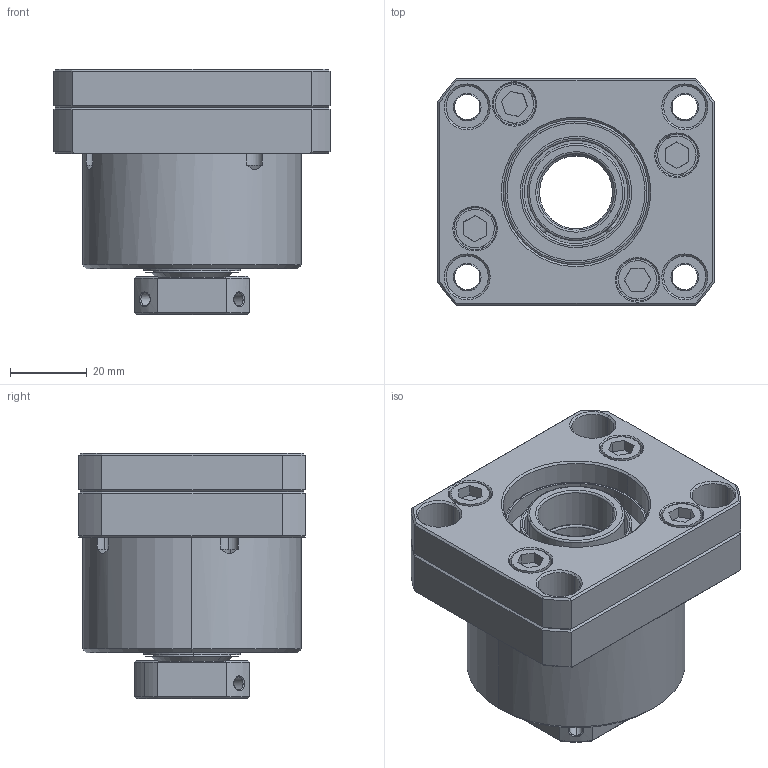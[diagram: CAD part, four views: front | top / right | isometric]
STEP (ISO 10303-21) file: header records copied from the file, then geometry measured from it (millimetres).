
FILE_DESCRIPTION (( 'STEP AP203' ), '1' );
FILE_NAME ('FKA20²Õ¦X¥óB.STEP', '2021-09-29T03:03:01', ( '' ), ( '' ), 'SwSTEP 2.0', 'SolidWorks 2018', '' );
FILE_SCHEMA (( 'CONFIG_CONTROL_DESIGN' ));
Length unit declared in the file: millimetre
Products named in the file (1): FKA20組合件B
Bounding box: 72 x 59 x 64 mm (x, y, z)
Surface area: 35118.7 mm2 (no closed solid volume)
Topology: 0 solids, 16 shells, 248 faces, 625 edges, 389 vertices
Faces by surface type: cylinder 87, plane 77, cone 60, torus 20, bspline 4
Entity records: 7969 total; most frequent: CARTESIAN_POINT 1927, DIRECTION 1332, ORIENTED_EDGE 1123, EDGE_CURVE 625, AXIS2_PLACEMENT_3D 536, VERTEX_POINT 389, CIRCLE 291, EDGE_LOOP 280
